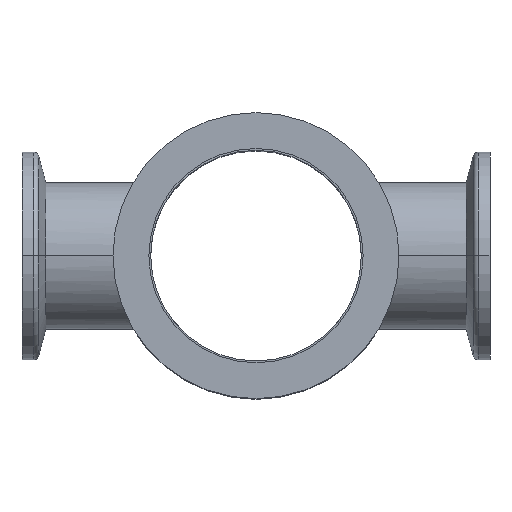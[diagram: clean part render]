
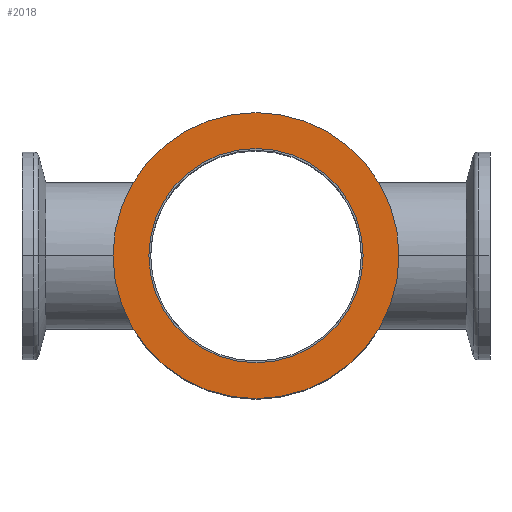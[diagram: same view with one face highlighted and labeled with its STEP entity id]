
A CAD part, top view. The second image highlights one B-rep face of the part: STEP entity #2018.
In plain terms, the highlighted planar face has unit normal (0, 0, 1).
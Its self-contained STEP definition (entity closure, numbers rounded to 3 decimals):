
#143 = EDGE_CURVE ( 'NONE', #1284, #1588, #1872, .T. ) ;
#275 = AXIS2_PLACEMENT_3D ( 'NONE', #1037, #2455, #327 ) ;
#327 = DIRECTION ( 'NONE',  ( 1., 0., 0. ) ) ;
#379 = EDGE_CURVE ( 'NONE', #1414, #2644, #455, .T. ) ;
#455 = CIRCLE ( 'NONE', #566, 20.6 ) ;
#501 = CARTESIAN_POINT ( 'NONE',  ( 0., 0., 0. ) ) ;
#528 = AXIS2_PLACEMENT_3D ( 'NONE', #501, #1680, #3085 ) ;
#566 = AXIS2_PLACEMENT_3D ( 'NONE', #1792, #848, #2740 ) ;
#597 = ORIENTED_EDGE ( 'NONE', *, *, #379, .F. ) ;
#848 = DIRECTION ( 'NONE',  ( 0., 0., 1. ) ) ;
#982 = FACE_OUTER_BOUND ( 'NONE', #2818, .T. ) ;
#1014 = ORIENTED_EDGE ( 'NONE', *, *, #143, .T. ) ;
#1037 = CARTESIAN_POINT ( 'NONE',  ( 0., 0., 0. ) ) ;
#1069 = CIRCLE ( 'NONE', #275, 20.6 ) ;
#1118 = EDGE_CURVE ( 'NONE', #1588, #1284, #2348, .T. ) ;
#1139 = ORIENTED_EDGE ( 'NONE', *, *, #2331, .F. ) ;
#1196 = DIRECTION ( 'NONE',  ( 0., 0., 1. ) ) ;
#1284 = VERTEX_POINT ( 'NONE', #1947 ) ;
#1333 = CARTESIAN_POINT ( 'NONE',  ( 27.5, 0., 0. ) ) ;
#1375 = CARTESIAN_POINT ( 'NONE',  ( -20.6, 0., 0. ) ) ;
#1414 = VERTEX_POINT ( 'NONE', #1375 ) ;
#1432 = DIRECTION ( 'NONE',  ( 0., 0., 1. ) ) ;
#1579 = EDGE_LOOP ( 'NONE', ( #1139, #597 ) ) ;
#1588 = VERTEX_POINT ( 'NONE', #1333 ) ;
#1653 = DIRECTION ( 'NONE',  ( 1., 0., 0. ) ) ;
#1659 = AXIS2_PLACEMENT_3D ( 'NONE', #2815, #1196, #1881 ) ;
#1680 = DIRECTION ( 'NONE',  ( 0., 0., 1. ) ) ;
#1792 = CARTESIAN_POINT ( 'NONE',  ( 0., 0., 0. ) ) ;
#1800 = CARTESIAN_POINT ( 'NONE',  ( 20.6, 0., 0. ) ) ;
#1872 = CIRCLE ( 'NONE', #528, 27.5 ) ;
#1881 = DIRECTION ( 'NONE',  ( 1., 0., 0. ) ) ;
#1886 = CARTESIAN_POINT ( 'NONE',  ( 0., 27.5, 0. ) ) ;
#1913 = AXIS2_PLACEMENT_3D ( 'NONE', #1886, #1432, #1653 ) ;
#1947 = CARTESIAN_POINT ( 'NONE',  ( -27.5, 0., 0. ) ) ;
#2018 = ADVANCED_FACE ( 'NONE', ( #982, #2115 ), #2144, .T. ) ;
#2115 = FACE_BOUND ( 'NONE', #1579, .T. ) ;
#2144 = PLANE ( 'NONE',  #1913 ) ;
#2182 = ORIENTED_EDGE ( 'NONE', *, *, #1118, .T. ) ;
#2331 = EDGE_CURVE ( 'NONE', #2644, #1414, #1069, .T. ) ;
#2348 = CIRCLE ( 'NONE', #1659, 27.5 ) ;
#2455 = DIRECTION ( 'NONE',  ( 0., 0., 1. ) ) ;
#2644 = VERTEX_POINT ( 'NONE', #1800 ) ;
#2740 = DIRECTION ( 'NONE',  ( 1., 0., 0. ) ) ;
#2815 = CARTESIAN_POINT ( 'NONE',  ( 0., 0., 0. ) ) ;
#2818 = EDGE_LOOP ( 'NONE', ( #2182, #1014 ) ) ;
#3085 = DIRECTION ( 'NONE',  ( 1., 0., 0. ) ) ;
